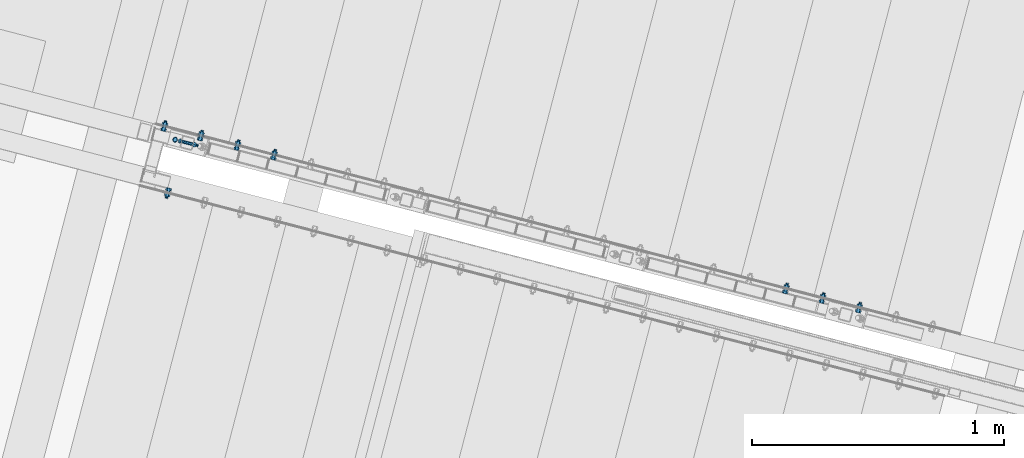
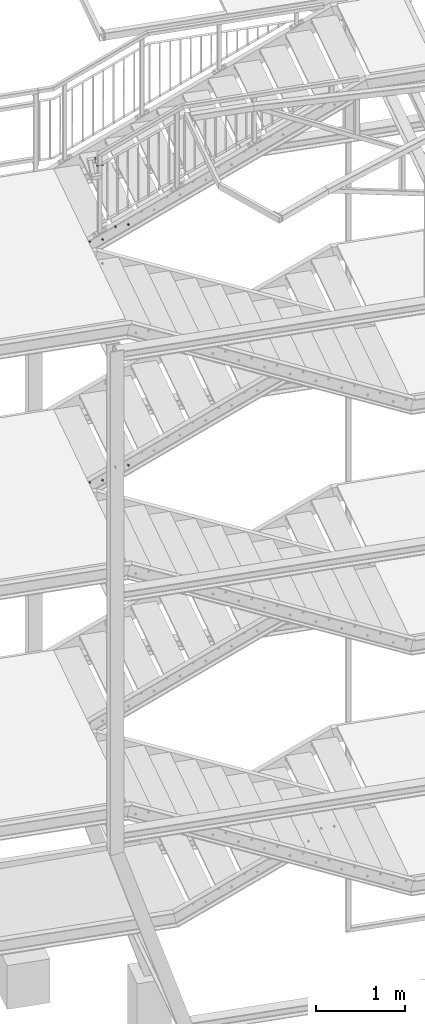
# One storey, part 146 of 169: 14 mechanical fasteners, 8 elements without a shape of their own.
"""IFC2X3 building model written with IfcOpenShell, lengths in millimetres."""

from ifc_helpers import new_model, si_unit, frame, frame_2d, origin_with_axes, origin_2d_with_axis, place, context, subcontext, project, spatial, polyline, circle_curve, parameter, trimmed, segment, composite_curve, circle, outline, extrude, source, transform, mapped, material, type_object, element, aggregate, save


model = new_model("IFC2X3")

# Units and contexts
model_context = context("Model", 3, precision=1e-05, world=origin_with_axes())
body_context = subcontext(model_context, "Body", "Model", "MODEL_VIEW")
ifc_project = project(units=[si_unit("LENGTHUNIT", "METRE", prefix="MILLI"), si_unit("AREAUNIT", "SQUARE_METRE"), si_unit("VOLUMEUNIT", "CUBIC_METRE"), si_unit("MASSUNIT", "GRAM", prefix="KILO"), si_unit("TIMEUNIT", "SECOND"), si_unit("PLANEANGLEUNIT", "RADIAN"), si_unit("SOLIDANGLEUNIT", "STERADIAN"), si_unit("THERMODYNAMICTEMPERATUREUNIT", "DEGREE_CELSIUS"), si_unit("LUMINOUSINTENSITYUNIT", "LUMEN")], contexts=[model_context])

# Site, building, storey
site_placement = place(None, origin_with_axes())
site = spatial("IfcSite", under=ifc_project, at=site_placement, Name="Undefined", CompositionType="ELEMENT")
building_placement = place(site_placement, origin_with_axes())
building = spatial("IfcBuilding", under=site, at=building_placement, Name="Undefined", CompositionType="ELEMENT")
storey_placement = place(building_placement, origin_with_axes())
storey = spatial("IfcBuildingStorey", under=building, at=storey_placement, Name="Undefined", CompositionType="ELEMENT", Elevation=0.0)

# Assembly, mechanical fasteners
assembly_1_placement = place(storey_placement, origin_with_axes())
assembly_1 = element("IfcElementAssembly", 1, at=assembly_1_placement, inside=storey, Name="Steel Assembly", AssemblyPlace="NOTDEFINED", PredefinedType="RIGID_FRAME")
ifc_material = material(Name="Undefined")
discrete_accessory_type = type_object("IfcDiscreteAccessoryType", Name="Bolt assembly")
shared_shape_1 = source(origin_with_axes(), body_context, "Body", "SweptSolid", [
    extrude(circle(Radius=6.5, at=origin_2d_with_axis()), frame((0.0, -52.8837022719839, 0.0), z_axis=(0.0, 1.0, 0.0), x_axis=(1.0, 0.0, 0.0)), (0.0, 0.0, 1.0), 50.0),
    extrude(outline(composite_curve([segment(polyline([(-5.0, 6.5), (5.0, 6.5)]), True, "CONTINUOUS"), segment(trimmed(circle_curve(frame_2d((5.0, 0.0), x_axis=(0.0, 1.0)), 6.5), [parameter(0.0)], [parameter(3.14159265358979)], False, "PARAMETER"), True, "CONTINUOUS"), segment(polyline([(5.0, -6.5), (-5.0, -6.5)]), True, "CONTINUOUS"), segment(trimmed(circle_curve(frame_2d((-5.0, 0.0), x_axis=(0.0, -1.0)), 6.5), [parameter(0.0)], [parameter(3.14159265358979)], False, "PARAMETER"), True, "DISCONTINUOUS")], self_intersect=False)), frame((0.0, -3.09396433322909, 0.0), z_axis=(0.0, 1.0, 0.0), x_axis=(1.0, 0.0, 0.0)), (0.0, 0.0, 1.0), 3.1),
    extrude(outline(polyline([(8.66025403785, 0.0), (4.330127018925, 7.50000000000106), (-4.330127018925, 7.50000000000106), (-8.66025403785, 0.0), (-4.330127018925, -7.50000000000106), (4.330127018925, -7.50000000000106), (8.66025403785, 0.0)])), frame((0.0, -61.3837023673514, 0.0), z_axis=(0.0, 1.0, 0.0), x_axis=(1.0, 0.0, 0.0)), (0.0, 0.0, 1.0), 6.4),
    extrude(circle(Radius=5.0, at=origin_2d_with_axis()), frame((0.0, -54.9837022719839, 0.0), z_axis=(0.0, 1.0, 0.0), x_axis=(1.0, 0.0, 0.0)), (0.0, 0.0, 1.0), 70.0),
    extrude(circle(Radius=10.0, at=origin_2d_with_axis()), frame((0.0, -54.9837022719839, 0.0), z_axis=(0.0, 1.0, 0.0), x_axis=(1.0, 0.0, 0.0)), (0.0, 0.0, 1.0), 2.0),
    extrude(circle(Radius=10.0, at=origin_2d_with_axis()), frame((0.0, 0.00603572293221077, 0.0), z_axis=(0.0, 1.0, 0.0), x_axis=(1.0, 0.0, 0.0)), (0.0, 0.0, 1.0), 2.0),
    extrude(outline(polyline([(9.81495457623, 0.0), (4.907477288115, 8.5000000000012), (-4.907477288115, 8.5000000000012), (-9.81495457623, 0.0), (-4.907477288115, -8.5000000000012), (4.907477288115, -8.5000000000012), (9.81495457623, 0.0)])), frame((0.0, 2.00603572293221, 0.0), z_axis=(0.0, 1.0, 0.0), x_axis=(1.0, 0.0, 0.0)), (0.0, 0.0, 1.0), 8.0),
])
mechanical_fastener_1_placement = place(assembly_1_placement, frame((-27842.4667691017, 7348.60796795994, 13427.2133332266), z_axis=(0.967595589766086, -0.252504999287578, 4.54747350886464e-14), x_axis=(-0.252504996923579, -0.96759558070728, 0.000136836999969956)))
mechanical_fastener_1 = element("IfcMechanicalFastener", 2, at=mechanical_fastener_1_placement, type_object=discrete_accessory_type, material=ifc_material, Name="Bolt assembly", NominalDiameter=10.0, NominalLength=70.0, context=body_context, shape_type="MappedRepresentation", body=[
    mapped(shared_shape_1, transform((0.0, 0.0, 0.0))),
])
shared_shape_2 = source(origin_with_axes(), body_context, "Body", "SweptSolid", [
    extrude(circle(Radius=6.5, at=origin_2d_with_axis()), frame((0.0, -0.0862729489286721, 0.0), z_axis=(0.0, 1.0, 0.0), x_axis=(1.0, 0.0, 0.0)), (0.0, 0.0, 1.0), 50.1),
    extrude(outline(composite_curve([segment(polyline([(-5.0, 6.5), (5.0, 6.5)]), True, "CONTINUOUS"), segment(trimmed(circle_curve(frame_2d((5.0, 0.0), x_axis=(0.0, 1.0)), 6.5), [parameter(0.0)], [parameter(3.14159265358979)], False, "PARAMETER"), True, "CONTINUOUS"), segment(polyline([(5.0, -6.5), (-5.0, -6.5)]), True, "CONTINUOUS"), segment(trimmed(circle_curve(frame_2d((-5.0, 0.0), x_axis=(0.0, -1.0)), 6.5), [parameter(0.0)], [parameter(3.14159265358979)], False, "PARAMETER"), True, "DISCONTINUOUS")], self_intersect=False)), frame((0.0, -2.89646862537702, 0.0), z_axis=(0.0, 1.0, 0.0), x_axis=(1.0, 0.0, 0.0)), (0.0, 0.0, 1.0), 3.0),
    extrude(outline(polyline([(8.66025403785, 0.0), (4.330127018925, 7.50000000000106), (-4.330127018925, 7.50000000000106), (-8.66025403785, 0.0), (-4.330127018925, -7.50000000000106), (4.330127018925, -7.50000000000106), (8.66025403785, 0.0)])), frame((0.0, -11.3964687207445, 0.0), z_axis=(0.0, 1.0, 0.0), x_axis=(1.0, 0.0, 0.0)), (0.0, 0.0, 1.0), 6.4),
    extrude(circle(Radius=5.0, at=origin_2d_with_axis()), frame((0.0, -4.99646862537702, 0.0), z_axis=(0.0, 1.0, 0.0), x_axis=(1.0, 0.0, 0.0)), (0.0, 0.0, 1.0), 75.0),
    extrude(circle(Radius=10.0, at=origin_2d_with_axis()), frame((0.0, -4.99646862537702, 0.0), z_axis=(0.0, 1.0, 0.0), x_axis=(1.0, 0.0, 0.0)), (0.0, 0.0, 1.0), 2.0),
    extrude(circle(Radius=10.0, at=origin_2d_with_axis()), frame((0.0, 50.013727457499, 0.0), z_axis=(0.0, 1.0, 0.0), x_axis=(1.0, 0.0, 0.0)), (0.0, 0.0, 1.0), 2.0),
    extrude(outline(polyline([(9.81495457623, 0.0), (4.907477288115, 8.5000000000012), (-4.907477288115, 8.5000000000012), (-9.81495457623, 0.0), (-4.907477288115, -8.5000000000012), (4.907477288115, -8.5000000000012), (9.81495457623, 0.0)])), frame((0.0, 52.013727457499, 0.0), z_axis=(0.0, 1.0, 0.0), x_axis=(1.0, 0.0, 0.0)), (0.0, 0.0, 1.0), 8.0),
])
mechanical_fastener_2_placement = place(assembly_1_placement, frame((-27818.2951211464, 7342.29204097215, 13370.20267882), z_axis=(0.252504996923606, 0.967595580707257, -0.000136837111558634), x_axis=(3.4552000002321e-05, 0.000132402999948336, 0.999999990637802)))
mechanical_fastener_2 = element("IfcMechanicalFastener", 3, at=mechanical_fastener_2_placement, type_object=discrete_accessory_type, material=ifc_material, Name="Bolt assembly", NominalDiameter=10.0, NominalLength=75.0, context=body_context, shape_type="MappedRepresentation", body=[
    mapped(shared_shape_2, transform((0.0, 0.0, 0.0))),
])
aggregate(assembly_1, [mechanical_fastener_1, mechanical_fastener_2])

# Assembly, mechanical fastener
assembly_2_placement = place(storey_placement, origin_with_axes())
assembly_2 = element("IfcElementAssembly", 4, at=assembly_2_placement, inside=storey, Name="Steel Assembly", AssemblyPlace="NOTDEFINED", PredefinedType="RIGID_FRAME")
shared_shape_3 = source(origin_with_axes(), body_context, "Body", "SweptSolid", [
    extrude(circle(Radius=7.5, at=origin_2d_with_axis()), frame((0.0, -8.39999975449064, 0.0), z_axis=(0.0, 1.0, 0.0), x_axis=(1.0, 0.0, 0.0)), (0.0, 0.0, 1.0), 8.5),
    extrude(circle(Radius=7.5, at=origin_2d_with_axis()), frame((0.0, -0.100000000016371, 0.0), z_axis=(0.0, 1.0, 0.0), x_axis=(1.0, 0.0, 0.0)), (0.0, 0.0, 1.0), 3.1),
    extrude(outline(polyline([(10.39230484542, 0.0), (5.19615242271, 9.00000000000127), (-5.19615242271, 9.00000000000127), (-10.39230484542, 0.0), (-5.19615242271, -9.00000000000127), (5.19615242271, -9.00000000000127), (10.39230484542, 0.0)])), frame((0.0, -18.4999993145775, 0.0), z_axis=(0.0, 1.0, 0.0), x_axis=(1.0, 0.0, 0.0)), (0.0, 0.0, 1.0), 7.5),
    extrude(circle(Radius=6.0, at=origin_2d_with_axis()), frame((0.0, -10.9999999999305, 0.0), z_axis=(0.0, 1.0, 0.0), x_axis=(1.0, 0.0, 0.0)), (0.0, 0.0, 1.0), 35.0),
    extrude(circle(Radius=12.0, at=origin_2d_with_axis()), frame((0.0, -10.9999999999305, 0.0), z_axis=(0.0, 1.0, 0.0), x_axis=(1.0, 0.0, 0.0)), (0.0, 0.0, 1.0), 2.5),
    extrude(circle(Radius=12.0, at=origin_2d_with_axis()), frame((0.0, 2.99999999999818, 0.0), z_axis=(0.0, 1.0, 0.0), x_axis=(1.0, 0.0, 0.0)), (0.0, 0.0, 1.0), 2.5),
    extrude(outline(polyline([(10.96965511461, 0.0), (5.484827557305, 9.50000000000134), (-5.484827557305, 9.50000000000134), (-10.96965511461, 0.0), (-5.484827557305, -9.50000000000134), (5.484827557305, -9.50000000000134), (10.96965511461, 0.0)])), frame((0.0, 5.50000000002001, 0.0), z_axis=(0.0, 1.0, 0.0), x_axis=(1.0, 0.0, 0.0)), (0.0, 0.0, 1.0), 10.0),
])
mechanical_fastener_3_placement = place(assembly_2_placement, frame((-27338.8866509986, 7258.36028490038, 12500.0957859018), z_axis=(-2.54700353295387e-10, 0.0, -1.0), x_axis=(-0.967580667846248, 0.252562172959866, 0.0)))
mechanical_fastener_3 = element("IfcMechanicalFastener", 5, at=mechanical_fastener_3_placement, type_object=discrete_accessory_type, material=ifc_material, Name="Bolt assembly", NominalDiameter=12.0, NominalLength=35.0, context=body_context, shape_type="MappedRepresentation", body=[
    mapped(shared_shape_3, transform((264.999998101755, 3.26144800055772e-09, 24.9999997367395))),
])

assembly_3_placement = place(storey_placement, origin_with_axes())
assembly_3 = element("IfcElementAssembly", 6, at=assembly_3_placement, inside=storey, Name="Steel Assembly", AssemblyPlace="NOTDEFINED", PredefinedType="RIGID_FRAME")
mechanical_fastener_4_placement = place(assembly_3_placement, frame((-27629.1608547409, 7334.1289377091, 12350.0957859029), z_axis=(-2.54700353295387e-10, 0.0, -1.0), x_axis=(-0.967580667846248, 0.252562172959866, 0.0)))
mechanical_fastener_4 = element("IfcMechanicalFastener", 7, at=mechanical_fastener_4_placement, type_object=discrete_accessory_type, material=ifc_material, Name="Bolt assembly", NominalDiameter=12.0, NominalLength=35.0, context=body_context, shape_type="MappedRepresentation", body=[
    mapped(shared_shape_3, transform((264.999998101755, 3.26144800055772e-09, 24.9999997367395))),
])

assembly_4_placement = place(storey_placement, origin_with_axes())
assembly_4 = element("IfcElementAssembly", 8, at=assembly_4_placement, inside=storey, Name="Steel Assembly", AssemblyPlace="NOTDEFINED", PredefinedType="RIGID_FRAME")
mechanical_fastener_5_placement = place(assembly_4_placement, frame((-27339.0007283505, 7257.92336994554, 9200.09581681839), z_axis=(-2.54700353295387e-10, 0.0, -1.0), x_axis=(-0.967580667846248, 0.252562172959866, 0.0)))
mechanical_fastener_5 = element("IfcMechanicalFastener", 9, at=mechanical_fastener_5_placement, type_object=discrete_accessory_type, material=ifc_material, Name="Bolt assembly", NominalDiameter=12.0, NominalLength=35.0, context=body_context, shape_type="MappedRepresentation", body=[
    mapped(shared_shape_3, transform((264.999998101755, 3.26144800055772e-09, 24.9999997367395))),
])

assembly_5_placement = place(storey_placement, origin_with_axes())
assembly_5 = element("IfcElementAssembly", 10, at=assembly_5_placement, inside=storey, Name="Steel Assembly", AssemblyPlace="NOTDEFINED", PredefinedType="RIGID_FRAME")
mechanical_fastener_6_placement = place(assembly_5_placement, frame((-27629.2749320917, 7333.69202275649, 9050.09581681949), z_axis=(-2.54700353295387e-10, 0.0, -1.0), x_axis=(-0.967580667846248, 0.252562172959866, 0.0)))
mechanical_fastener_6 = element("IfcMechanicalFastener", 11, at=mechanical_fastener_6_placement, type_object=discrete_accessory_type, material=ifc_material, Name="Bolt assembly", NominalDiameter=12.0, NominalLength=35.0, context=body_context, shape_type="MappedRepresentation", body=[
    mapped(shared_shape_3, transform((264.999998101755, 3.26144800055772e-09, 24.9999997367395))),
])

assembly_6_placement = place(storey_placement, origin_with_axes())
assembly_6 = element("IfcElementAssembly", 12, at=assembly_6_placement, inside=storey, Name="Steel Assembly", AssemblyPlace="NOTDEFINED", PredefinedType="RIGID_FRAME")
mechanical_fastener_7_placement = place(assembly_6_placement, frame((-25017.0352613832, 6650.90031993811, 3800.09587439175), z_axis=(-2.54700353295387e-10, 0.0, -1.0), x_axis=(-0.967580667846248, 0.252562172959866, 0.0)))
mechanical_fastener_7 = element("IfcMechanicalFastener", 13, at=mechanical_fastener_7_placement, type_object=discrete_accessory_type, material=ifc_material, Name="Bolt assembly", NominalDiameter=12.0, NominalLength=35.0, context=body_context, shape_type="MappedRepresentation", body=[
    mapped(shared_shape_3, transform((264.999998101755, 3.26144800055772e-09, 24.9999997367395))),
])

# Mechanical fastener
shared_shape_4 = source(origin_with_axes(), body_context, "Body", "SweptSolid", [
    extrude(circle(Radius=7.5, at=origin_2d_with_axis()), frame((0.0, -8.39999975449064, 0.0), z_axis=(0.0, 1.0, 0.0), x_axis=(1.0, 0.0, 0.0)), (0.0, 0.0, 1.0), 8.5),
    extrude(outline(composite_curve([segment(polyline([(-10.0, 7.5), (10.0, 7.5)]), True, "CONTINUOUS"), segment(trimmed(circle_curve(frame_2d((10.0, 0.0), x_axis=(0.0, 1.0)), 7.5), [parameter(0.0)], [parameter(3.14159265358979)], False, "PARAMETER"), True, "CONTINUOUS"), segment(polyline([(10.0, -7.5), (-10.0, -7.5)]), True, "CONTINUOUS"), segment(trimmed(circle_curve(frame_2d((-10.0, 0.0), x_axis=(0.0, -1.0)), 7.5), [parameter(0.0)], [parameter(3.14159265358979)], False, "PARAMETER"), True, "DISCONTINUOUS")], self_intersect=False)), frame((0.0, -0.100000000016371, 0.0), z_axis=(0.0, 1.0, 0.0), x_axis=(1.0, 0.0, 0.0)), (0.0, 0.0, 1.0), 3.1),
    extrude(outline(polyline([(10.39230484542, 0.0), (5.19615242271, 9.00000000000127), (-5.19615242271, 9.00000000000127), (-10.39230484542, 0.0), (-5.19615242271, -9.00000000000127), (5.19615242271, -9.00000000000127), (10.39230484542, 0.0)])), frame((0.0, -18.4999993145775, 0.0), z_axis=(0.0, 1.0, 0.0), x_axis=(1.0, 0.0, 0.0)), (0.0, 0.0, 1.0), 7.5),
    extrude(circle(Radius=6.0, at=origin_2d_with_axis()), frame((0.0, -10.9999999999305, 0.0), z_axis=(0.0, 1.0, 0.0), x_axis=(1.0, 0.0, 0.0)), (0.0, 0.0, 1.0), 35.0),
    extrude(circle(Radius=12.0, at=origin_2d_with_axis()), frame((0.0, -10.9999999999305, 0.0), z_axis=(0.0, 1.0, 0.0), x_axis=(1.0, 0.0, 0.0)), (0.0, 0.0, 1.0), 2.5),
    extrude(circle(Radius=12.0, at=origin_2d_with_axis()), frame((0.0, 2.99999999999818, 0.0), z_axis=(0.0, 1.0, 0.0), x_axis=(1.0, 0.0, 0.0)), (0.0, 0.0, 1.0), 2.5),
    extrude(outline(polyline([(10.96965511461, 0.0), (5.484827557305, 9.50000000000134), (-5.484827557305, 9.50000000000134), (-10.96965511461, 0.0), (-5.484827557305, -9.50000000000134), (5.484827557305, -9.50000000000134), (10.96965511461, 0.0)])), frame((0.0, 5.50000000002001, 0.0), z_axis=(0.0, 1.0, 0.0), x_axis=(1.0, 0.0, 0.0)), (0.0, 0.0, 1.0), 10.0),
])
mechanical_fastener_8_placement = place(assembly_2_placement, frame((-27338.8866509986, 7258.36028490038, 12500.0957859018), z_axis=(-2.54700353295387e-10, 0.0, -1.0), x_axis=(-0.967580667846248, 0.252562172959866, 0.0)))
mechanical_fastener_8 = element("IfcMechanicalFastener", 14, at=mechanical_fastener_8_placement, type_object=discrete_accessory_type, material=ifc_material, Name="Bolt assembly", NominalDiameter=12.0, NominalLength=35.0, context=body_context, shape_type="MappedRepresentation", body=[
    mapped(shared_shape_4, transform((115.000000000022, -4.04725142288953e-10, 25.0))),
])

aggregate(assembly_2, [mechanical_fastener_8, mechanical_fastener_3])

shared_shape_5 = source(origin_with_axes(), body_context, "Body", "SweptSolid", [
    extrude(circle(Radius=7.5, at=origin_2d_with_axis()), frame((0.0, -8.39999975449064, 0.0), z_axis=(0.0, 1.0, 0.0), x_axis=(1.0, 0.0, 0.0)), (0.0, 0.0, 1.0), 8.5),
    extrude(outline(composite_curve([segment(polyline([(-10.0, 7.5), (10.0, 7.5)]), True, "CONTINUOUS"), segment(trimmed(circle_curve(frame_2d((10.0, 0.0), x_axis=(0.0, 1.0)), 7.5), [parameter(0.0)], [parameter(3.14159265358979)], False, "PARAMETER"), True, "CONTINUOUS"), segment(polyline([(10.0, -7.5), (-10.0, -7.5)]), True, "CONTINUOUS"), segment(trimmed(circle_curve(frame_2d((-10.0, 0.0), x_axis=(0.0, -1.0)), 7.5), [parameter(0.0)], [parameter(3.14159265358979)], False, "PARAMETER"), True, "DISCONTINUOUS")], self_intersect=False)), frame((0.0, -0.100000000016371, 0.0), z_axis=(0.0, 1.0, 0.0), x_axis=(1.0, 0.0, 0.0)), (0.0, 0.0, 1.0), 3.1),
    extrude(outline(polyline([(10.39230484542, 0.0), (5.19615242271, 9.00000000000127), (-5.19615242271, 9.00000000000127), (-10.39230484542, 0.0), (-5.19615242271, -9.00000000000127), (5.19615242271, -9.00000000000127), (10.39230484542, 0.0)])), frame((0.0, -18.4999993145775, 0.0), z_axis=(0.0, 1.0, 0.0), x_axis=(1.0, 0.0, 0.0)), (0.0, 0.0, 1.0), 7.5),
    extrude(circle(Radius=6.0, at=origin_2d_with_axis()), frame((0.0, -10.9999999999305, 0.0), z_axis=(0.0, 1.0, 0.0), x_axis=(1.0, 0.0, 0.0)), (0.0, 0.0, 1.0), 35.0),
    extrude(circle(Radius=12.0, at=origin_2d_with_axis()), frame((0.0, -10.9999999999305, 0.0), z_axis=(0.0, 1.0, 0.0), x_axis=(1.0, 0.0, 0.0)), (0.0, 0.0, 1.0), 2.5),
    extrude(circle(Radius=12.0, at=origin_2d_with_axis()), frame((0.0, 2.99999999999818, 0.0), z_axis=(0.0, 1.0, 0.0), x_axis=(1.0, 0.0, 0.0)), (0.0, 0.0, 1.0), 2.5),
    extrude(outline(polyline([(10.96965511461, 0.0), (5.484827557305, 9.50000000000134), (-5.484827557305, 9.50000000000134), (-10.96965511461, 0.0), (-5.484827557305, -9.50000000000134), (5.484827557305, -9.50000000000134), (10.96965511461, 0.0)])), frame((0.0, 5.50000000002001, 0.0), z_axis=(0.0, 1.0, 0.0), x_axis=(1.0, 0.0, 0.0)), (0.0, 0.0, 1.0), 10.0),
])
mechanical_fastener_9_placement = place(assembly_3_placement, frame((-27629.1608547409, 7334.1289377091, 12350.0957859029), z_axis=(-2.54700353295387e-10, 0.0, -1.0), x_axis=(-0.967580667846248, 0.252562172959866, 0.0)))
mechanical_fastener_9 = element("IfcMechanicalFastener", 15, at=mechanical_fastener_9_placement, type_object=discrete_accessory_type, material=ifc_material, Name="Bolt assembly", NominalDiameter=12.0, NominalLength=35.0, context=body_context, shape_type="MappedRepresentation", body=[
    mapped(shared_shape_5, transform((115.000000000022, -4.04725142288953e-10, 25.0))),
])

aggregate(assembly_3, [mechanical_fastener_9, mechanical_fastener_4])

# Assembly, mechanical fastener
assembly_7_placement = place(storey_placement, origin_with_axes())
assembly_7 = element("IfcElementAssembly", 16, at=assembly_7_placement, inside=storey, Name="Steel Assembly", AssemblyPlace="NOTDEFINED", PredefinedType="RIGID_FRAME")
shared_shape_6 = source(origin_with_axes(), body_context, "Body", "SweptSolid", [
    extrude(circle(Radius=7.5, at=origin_2d_with_axis()), frame((0.0, -8.39999975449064, 0.0), z_axis=(0.0, 1.0, 0.0), x_axis=(1.0, 0.0, 0.0)), (0.0, 0.0, 1.0), 8.5),
    extrude(outline(composite_curve([segment(polyline([(-10.0, 7.5), (10.0, 7.5)]), True, "CONTINUOUS"), segment(trimmed(circle_curve(frame_2d((10.0, 0.0), x_axis=(0.0, 1.0)), 7.5), [parameter(0.0)], [parameter(3.14159265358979)], False, "PARAMETER"), True, "CONTINUOUS"), segment(polyline([(10.0, -7.5), (-10.0, -7.5)]), True, "CONTINUOUS"), segment(trimmed(circle_curve(frame_2d((-10.0, 0.0), x_axis=(0.0, -1.0)), 7.5), [parameter(0.0)], [parameter(3.14159265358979)], False, "PARAMETER"), True, "DISCONTINUOUS")], self_intersect=False)), frame((0.0, -0.100000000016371, 0.0), z_axis=(0.0, 1.0, 0.0), x_axis=(1.0, 0.0, 0.0)), (0.0, 0.0, 1.0), 3.1),
    extrude(outline(polyline([(10.39230484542, 0.0), (5.19615242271, 9.00000000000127), (-5.19615242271, 9.00000000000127), (-10.39230484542, 0.0), (-5.19615242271, -9.00000000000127), (5.19615242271, -9.00000000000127), (10.39230484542, 0.0)])), frame((0.0, -18.4999993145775, 0.0), z_axis=(0.0, 1.0, 0.0), x_axis=(1.0, 0.0, 0.0)), (0.0, 0.0, 1.0), 7.5),
    extrude(circle(Radius=6.0, at=origin_2d_with_axis()), frame((0.0, -10.9999999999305, 0.0), z_axis=(0.0, 1.0, 0.0), x_axis=(1.0, 0.0, 0.0)), (0.0, 0.0, 1.0), 35.0),
    extrude(circle(Radius=12.0, at=origin_2d_with_axis()), frame((0.0, -10.9999999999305, 0.0), z_axis=(0.0, 1.0, 0.0), x_axis=(1.0, 0.0, 0.0)), (0.0, 0.0, 1.0), 2.5),
    extrude(circle(Radius=12.0, at=origin_2d_with_axis()), frame((0.0, 2.99999999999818, 0.0), z_axis=(0.0, 1.0, 0.0), x_axis=(1.0, 0.0, 0.0)), (0.0, 0.0, 1.0), 2.5),
    extrude(outline(polyline([(10.96965511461, 0.0), (5.484827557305, 9.50000000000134), (-5.484827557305, 9.50000000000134), (-10.96965511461, 0.0), (-5.484827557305, -9.50000000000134), (5.484827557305, -9.50000000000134), (10.96965511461, 0.0)])), frame((0.0, 5.50000000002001, 0.0), z_axis=(0.0, 1.0, 0.0), x_axis=(1.0, 0.0, 0.0)), (0.0, 0.0, 1.0), 10.0),
])
mechanical_fastener_10_placement = place(assembly_7_placement, frame((-27982.5921716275, 7168.00676223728, 12200.3215824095), z_axis=(-2.54700353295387e-10, 0.0, -1.0), x_axis=(0.96754609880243, -0.252694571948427, 0.0)))
mechanical_fastener_10 = element("IfcMechanicalFastener", 17, at=mechanical_fastener_10_placement, type_object=discrete_accessory_type, material=ifc_material, Name="Bolt assembly", NominalDiameter=12.0, NominalLength=35.0, context=body_context, shape_type="MappedRepresentation", body=[
    mapped(shared_shape_6, transform((115.000000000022, -4.04725142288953e-10, 25.0))),
])
aggregate(assembly_7, [mechanical_fastener_10])

# Mechanical fastener
shared_shape_7 = source(origin_with_axes(), body_context, "Body", "SweptSolid", [
    extrude(circle(Radius=7.5, at=origin_2d_with_axis()), frame((0.0, -8.39999975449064, 0.0), z_axis=(0.0, 1.0, 0.0), x_axis=(1.0, 0.0, 0.0)), (0.0, 0.0, 1.0), 8.5),
    extrude(outline(composite_curve([segment(polyline([(-10.0, 7.5), (10.0, 7.5)]), True, "CONTINUOUS"), segment(trimmed(circle_curve(frame_2d((10.0, 0.0), x_axis=(0.0, 1.0)), 7.5), [parameter(0.0)], [parameter(3.14159265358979)], False, "PARAMETER"), True, "CONTINUOUS"), segment(polyline([(10.0, -7.5), (-10.0, -7.5)]), True, "CONTINUOUS"), segment(trimmed(circle_curve(frame_2d((-10.0, 0.0), x_axis=(0.0, -1.0)), 7.5), [parameter(0.0)], [parameter(3.14159265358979)], False, "PARAMETER"), True, "DISCONTINUOUS")], self_intersect=False)), frame((0.0, -0.100000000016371, 0.0), z_axis=(0.0, 1.0, 0.0), x_axis=(1.0, 0.0, 0.0)), (0.0, 0.0, 1.0), 3.1),
    extrude(outline(polyline([(10.39230484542, 0.0), (5.19615242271, 9.00000000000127), (-5.19615242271, 9.00000000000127), (-10.39230484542, 0.0), (-5.19615242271, -9.00000000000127), (5.19615242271, -9.00000000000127), (10.39230484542, 0.0)])), frame((0.0, -18.4999993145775, 0.0), z_axis=(0.0, 1.0, 0.0), x_axis=(1.0, 0.0, 0.0)), (0.0, 0.0, 1.0), 7.5),
    extrude(circle(Radius=6.0, at=origin_2d_with_axis()), frame((0.0, -10.9999999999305, 0.0), z_axis=(0.0, 1.0, 0.0), x_axis=(1.0, 0.0, 0.0)), (0.0, 0.0, 1.0), 35.0),
    extrude(circle(Radius=12.0, at=origin_2d_with_axis()), frame((0.0, -10.9999999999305, 0.0), z_axis=(0.0, 1.0, 0.0), x_axis=(1.0, 0.0, 0.0)), (0.0, 0.0, 1.0), 2.5),
    extrude(circle(Radius=12.0, at=origin_2d_with_axis()), frame((0.0, 2.99999999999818, 0.0), z_axis=(0.0, 1.0, 0.0), x_axis=(1.0, 0.0, 0.0)), (0.0, 0.0, 1.0), 2.5),
    extrude(outline(polyline([(10.96965511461, 0.0), (5.484827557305, 9.50000000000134), (-5.484827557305, 9.50000000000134), (-10.96965511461, 0.0), (-5.484827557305, -9.50000000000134), (5.484827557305, -9.50000000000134), (10.96965511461, 0.0)])), frame((0.0, 5.50000000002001, 0.0), z_axis=(0.0, 1.0, 0.0), x_axis=(1.0, 0.0, 0.0)), (0.0, 0.0, 1.0), 10.0),
])
mechanical_fastener_11_placement = place(assembly_4_placement, frame((-27339.0007283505, 7257.92336994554, 9200.09581681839), z_axis=(-2.54700353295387e-10, 0.0, -1.0), x_axis=(-0.967580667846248, 0.252562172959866, 0.0)))
mechanical_fastener_11 = element("IfcMechanicalFastener", 18, at=mechanical_fastener_11_placement, type_object=discrete_accessory_type, material=ifc_material, Name="Bolt assembly", NominalDiameter=12.0, NominalLength=35.0, context=body_context, shape_type="MappedRepresentation", body=[
    mapped(shared_shape_7, transform((115.000000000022, -4.04725142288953e-10, 25.0))),
])

aggregate(assembly_4, [mechanical_fastener_11, mechanical_fastener_5])

shared_shape_8 = source(origin_with_axes(), body_context, "Body", "SweptSolid", [
    extrude(circle(Radius=7.5, at=origin_2d_with_axis()), frame((0.0, -8.39999975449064, 0.0), z_axis=(0.0, 1.0, 0.0), x_axis=(1.0, 0.0, 0.0)), (0.0, 0.0, 1.0), 8.5),
    extrude(outline(composite_curve([segment(polyline([(-10.0, 7.5), (10.0, 7.5)]), True, "CONTINUOUS"), segment(trimmed(circle_curve(frame_2d((10.0, 0.0), x_axis=(0.0, 1.0)), 7.5), [parameter(0.0)], [parameter(3.14159265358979)], False, "PARAMETER"), True, "CONTINUOUS"), segment(polyline([(10.0, -7.5), (-10.0, -7.5)]), True, "CONTINUOUS"), segment(trimmed(circle_curve(frame_2d((-10.0, 0.0), x_axis=(0.0, -1.0)), 7.5), [parameter(0.0)], [parameter(3.14159265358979)], False, "PARAMETER"), True, "DISCONTINUOUS")], self_intersect=False)), frame((0.0, -0.100000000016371, 0.0), z_axis=(0.0, 1.0, 0.0), x_axis=(1.0, 0.0, 0.0)), (0.0, 0.0, 1.0), 3.1),
    extrude(outline(polyline([(10.39230484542, 0.0), (5.19615242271, 9.00000000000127), (-5.19615242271, 9.00000000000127), (-10.39230484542, 0.0), (-5.19615242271, -9.00000000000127), (5.19615242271, -9.00000000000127), (10.39230484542, 0.0)])), frame((0.0, -18.4999993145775, 0.0), z_axis=(0.0, 1.0, 0.0), x_axis=(1.0, 0.0, 0.0)), (0.0, 0.0, 1.0), 7.5),
    extrude(circle(Radius=6.0, at=origin_2d_with_axis()), frame((0.0, -10.9999999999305, 0.0), z_axis=(0.0, 1.0, 0.0), x_axis=(1.0, 0.0, 0.0)), (0.0, 0.0, 1.0), 35.0),
    extrude(circle(Radius=12.0, at=origin_2d_with_axis()), frame((0.0, -10.9999999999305, 0.0), z_axis=(0.0, 1.0, 0.0), x_axis=(1.0, 0.0, 0.0)), (0.0, 0.0, 1.0), 2.5),
    extrude(circle(Radius=12.0, at=origin_2d_with_axis()), frame((0.0, 2.99999999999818, 0.0), z_axis=(0.0, 1.0, 0.0), x_axis=(1.0, 0.0, 0.0)), (0.0, 0.0, 1.0), 2.5),
    extrude(outline(polyline([(10.96965511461, 0.0), (5.484827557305, 9.50000000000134), (-5.484827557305, 9.50000000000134), (-10.96965511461, 0.0), (-5.484827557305, -9.50000000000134), (5.484827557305, -9.50000000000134), (10.96965511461, 0.0)])), frame((0.0, 5.50000000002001, 0.0), z_axis=(0.0, 1.0, 0.0), x_axis=(1.0, 0.0, 0.0)), (0.0, 0.0, 1.0), 10.0),
])
mechanical_fastener_12_placement = place(assembly_5_placement, frame((-27629.2749320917, 7333.69202275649, 9050.09581681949), z_axis=(-2.54700353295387e-10, 0.0, -1.0), x_axis=(-0.967580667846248, 0.252562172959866, 0.0)))
mechanical_fastener_12 = element("IfcMechanicalFastener", 19, at=mechanical_fastener_12_placement, type_object=discrete_accessory_type, material=ifc_material, Name="Bolt assembly", NominalDiameter=12.0, NominalLength=35.0, context=body_context, shape_type="MappedRepresentation", body=[
    mapped(shared_shape_8, transform((115.000000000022, -4.04725142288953e-10, 25.0))),
])

aggregate(assembly_5, [mechanical_fastener_12, mechanical_fastener_6])

shared_shape_9 = source(origin_with_axes(), body_context, "Body", "SweptSolid", [
    extrude(circle(Radius=7.5, at=origin_2d_with_axis()), frame((0.0, -8.39999975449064, 0.0), z_axis=(0.0, 1.0, 0.0), x_axis=(1.0, 0.0, 0.0)), (0.0, 0.0, 1.0), 8.5),
    extrude(outline(composite_curve([segment(polyline([(-10.0, 7.5), (10.0, 7.5)]), True, "CONTINUOUS"), segment(trimmed(circle_curve(frame_2d((10.0, 0.0), x_axis=(0.0, 1.0)), 7.5), [parameter(0.0)], [parameter(3.14159265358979)], False, "PARAMETER"), True, "CONTINUOUS"), segment(polyline([(10.0, -7.5), (-10.0, -7.5)]), True, "CONTINUOUS"), segment(trimmed(circle_curve(frame_2d((-10.0, 0.0), x_axis=(0.0, -1.0)), 7.5), [parameter(0.0)], [parameter(3.14159265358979)], False, "PARAMETER"), True, "DISCONTINUOUS")], self_intersect=False)), frame((0.0, -0.100000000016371, 0.0), z_axis=(0.0, 1.0, 0.0), x_axis=(1.0, 0.0, 0.0)), (0.0, 0.0, 1.0), 3.1),
    extrude(outline(polyline([(10.39230484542, 0.0), (5.19615242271, 9.00000000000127), (-5.19615242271, 9.00000000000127), (-10.39230484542, 0.0), (-5.19615242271, -9.00000000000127), (5.19615242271, -9.00000000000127), (10.39230484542, 0.0)])), frame((0.0, -18.4999993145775, 0.0), z_axis=(0.0, 1.0, 0.0), x_axis=(1.0, 0.0, 0.0)), (0.0, 0.0, 1.0), 7.5),
    extrude(circle(Radius=6.0, at=origin_2d_with_axis()), frame((0.0, -10.9999999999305, 0.0), z_axis=(0.0, 1.0, 0.0), x_axis=(1.0, 0.0, 0.0)), (0.0, 0.0, 1.0), 35.0),
    extrude(circle(Radius=12.0, at=origin_2d_with_axis()), frame((0.0, -10.9999999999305, 0.0), z_axis=(0.0, 1.0, 0.0), x_axis=(1.0, 0.0, 0.0)), (0.0, 0.0, 1.0), 2.5),
    extrude(circle(Radius=12.0, at=origin_2d_with_axis()), frame((0.0, 2.99999999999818, 0.0), z_axis=(0.0, 1.0, 0.0), x_axis=(1.0, 0.0, 0.0)), (0.0, 0.0, 1.0), 2.5),
    extrude(outline(polyline([(10.96965511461, 0.0), (5.484827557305, 9.50000000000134), (-5.484827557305, 9.50000000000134), (-10.96965511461, 0.0), (-5.484827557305, -9.50000000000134), (5.484827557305, -9.50000000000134), (10.96965511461, 0.0)])), frame((0.0, 5.50000000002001, 0.0), z_axis=(0.0, 1.0, 0.0), x_axis=(1.0, 0.0, 0.0)), (0.0, 0.0, 1.0), 10.0),
])
mechanical_fastener_13_placement = place(assembly_6_placement, frame((-25017.0352613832, 6650.90031993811, 3800.09587439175), z_axis=(-2.54700353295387e-10, 0.0, -1.0), x_axis=(-0.967580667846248, 0.252562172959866, 0.0)))
mechanical_fastener_13 = element("IfcMechanicalFastener", 20, at=mechanical_fastener_13_placement, type_object=discrete_accessory_type, material=ifc_material, Name="Bolt assembly", NominalDiameter=12.0, NominalLength=35.0, context=body_context, shape_type="MappedRepresentation", body=[
    mapped(shared_shape_9, transform((115.000000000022, -4.04725142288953e-10, 25.0))),
])

aggregate(assembly_6, [mechanical_fastener_13, mechanical_fastener_7])

# Assembly, mechanical fastener
assembly_8_placement = place(storey_placement, origin_with_axes())
assembly_8 = element("IfcElementAssembly", 21, at=assembly_8_placement, inside=storey, Name="Steel Assembly", AssemblyPlace="NOTDEFINED", PredefinedType="RIGID_FRAME")
shared_shape_10 = source(origin_with_axes(), body_context, "Body", "SweptSolid", [
    extrude(circle(Radius=7.5, at=origin_2d_with_axis()), frame((0.0, -8.39999975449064, 0.0), z_axis=(0.0, 1.0, 0.0), x_axis=(1.0, 0.0, 0.0)), (0.0, 0.0, 1.0), 8.5),
    extrude(outline(composite_curve([segment(polyline([(-10.0, 7.5), (10.0, 7.5)]), True, "CONTINUOUS"), segment(trimmed(circle_curve(frame_2d((10.0, 0.0), x_axis=(0.0, 1.0)), 7.5), [parameter(0.0)], [parameter(3.14159265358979)], False, "PARAMETER"), True, "CONTINUOUS"), segment(polyline([(10.0, -7.5), (-10.0, -7.5)]), True, "CONTINUOUS"), segment(trimmed(circle_curve(frame_2d((-10.0, 0.0), x_axis=(0.0, -1.0)), 7.5), [parameter(0.0)], [parameter(3.14159265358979)], False, "PARAMETER"), True, "DISCONTINUOUS")], self_intersect=False)), frame((0.0, -0.100000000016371, 0.0), z_axis=(0.0, 1.0, 0.0), x_axis=(1.0, 0.0, 0.0)), (0.0, 0.0, 1.0), 3.1),
    extrude(outline(polyline([(10.39230484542, 0.0), (5.19615242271, 9.00000000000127), (-5.19615242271, 9.00000000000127), (-10.39230484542, 0.0), (-5.19615242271, -9.00000000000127), (5.19615242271, -9.00000000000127), (10.39230484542, 0.0)])), frame((0.0, -18.4999993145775, 0.0), z_axis=(0.0, 1.0, 0.0), x_axis=(1.0, 0.0, 0.0)), (0.0, 0.0, 1.0), 7.5),
    extrude(circle(Radius=6.0, at=origin_2d_with_axis()), frame((0.0, -10.9999999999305, 0.0), z_axis=(0.0, 1.0, 0.0), x_axis=(1.0, 0.0, 0.0)), (0.0, 0.0, 1.0), 35.0),
    extrude(circle(Radius=12.0, at=origin_2d_with_axis()), frame((0.0, -10.9999999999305, 0.0), z_axis=(0.0, 1.0, 0.0), x_axis=(1.0, 0.0, 0.0)), (0.0, 0.0, 1.0), 2.5),
    extrude(circle(Radius=12.0, at=origin_2d_with_axis()), frame((0.0, 2.99999999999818, 0.0), z_axis=(0.0, 1.0, 0.0), x_axis=(1.0, 0.0, 0.0)), (0.0, 0.0, 1.0), 2.5),
    extrude(outline(polyline([(10.96965511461, 0.0), (5.484827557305, 9.50000000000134), (-5.484827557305, 9.50000000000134), (-10.96965511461, 0.0), (-5.484827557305, -9.50000000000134), (5.484827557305, -9.50000000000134), (10.96965511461, 0.0)])), frame((0.0, 5.50000000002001, 0.0), z_axis=(0.0, 1.0, 0.0), x_axis=(1.0, 0.0, 0.0)), (0.0, 0.0, 1.0), 10.0),
])
mechanical_fastener_14_placement = place(assembly_8_placement, frame((-25307.3094651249, 6726.66897274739, 3650.0958743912), z_axis=(-2.54700353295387e-10, 0.0, -1.0), x_axis=(-0.967580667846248, 0.252562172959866, 0.0)))
mechanical_fastener_14 = element("IfcMechanicalFastener", 22, at=mechanical_fastener_14_placement, type_object=discrete_accessory_type, material=ifc_material, Name="Bolt assembly", NominalDiameter=12.0, NominalLength=35.0, context=body_context, shape_type="MappedRepresentation", body=[
    mapped(shared_shape_10, transform((115.000000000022, -4.04725142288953e-10, 25.0))),
])
aggregate(assembly_8, [mechanical_fastener_14])

save(model, "model.ifc")
